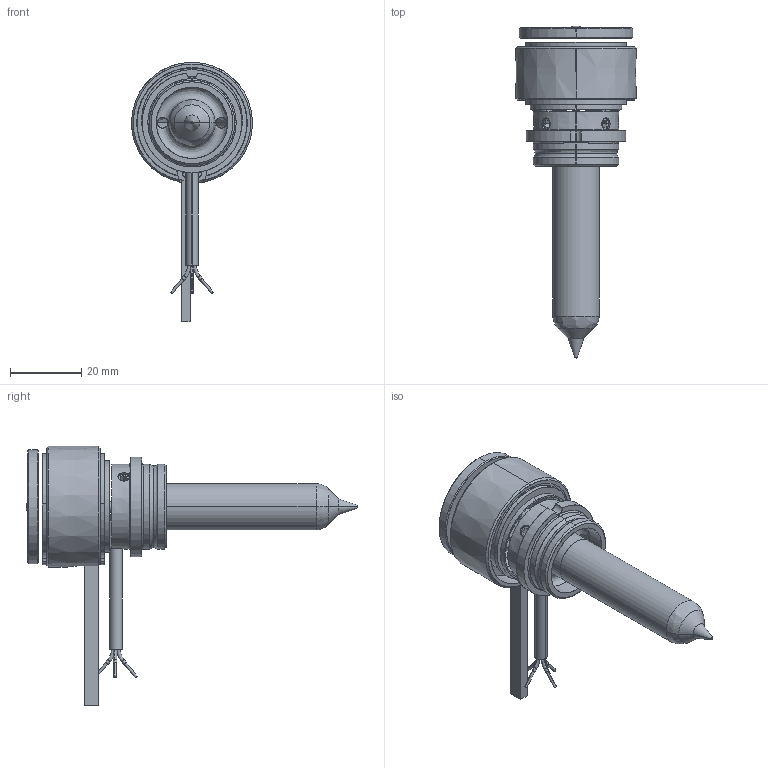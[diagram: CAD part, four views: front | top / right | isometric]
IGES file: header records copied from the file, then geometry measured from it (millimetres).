
Start section: SolidWorks IGES file using analytic representation for surfaces
Global section: file name: C:\Documents and Settings\ws-20\Desktop\TEM\UGGS2530-S-1 [Øf-0.68].IGS; native system: SolidWorks 2012; preprocessor: SolidWorks 2012; author: ws-20; date: 120516.093237; units: millimetre
Bounding box: 34 x 93.3 x 72.9 mm (x, y, z)
Surface area: 16409.4 mm2 (no closed solid volume)
Topology: 0 solids, 0 shells, 208 faces, 2969 edges, 2963 vertices
Faces by surface type: revolution 131, bspline 77
